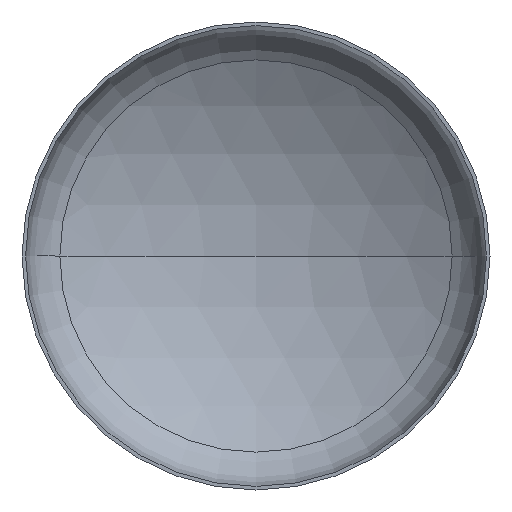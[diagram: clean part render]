
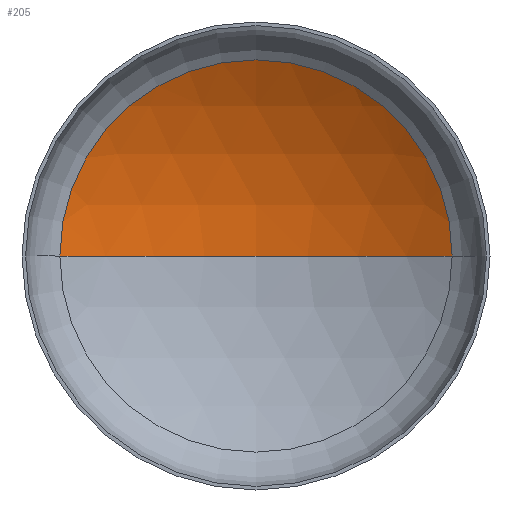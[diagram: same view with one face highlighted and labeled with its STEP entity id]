
A CAD part, front view. The second image highlights one B-rep face of the part: STEP entity #205.
In plain terms, the highlighted spherical face has radius 5200 mm.
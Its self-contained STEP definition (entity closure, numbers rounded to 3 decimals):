
#5 = ORIENTED_EDGE ( 'NONE', *, *, #166, .T. ) ;
#9 = ORIENTED_EDGE ( 'NONE', *, *, #168, .T. ) ;
#21 = CARTESIAN_POINT ( 'NONE',  ( -2723.81, 1001.835, 0. ) ) ;
#30 = VERTEX_POINT ( 'NONE', #362 ) ;
#43 = AXIS2_PLACEMENT_3D ( 'NONE', #130, #159, #230 ) ;
#47 = DIRECTION ( 'NONE',  ( 1., 0., 0. ) ) ;
#52 = ORIENTED_EDGE ( 'NONE', *, *, #172, .F. ) ;
#75 = AXIS2_PLACEMENT_3D ( 'NONE', #393, #293, #318 ) ;
#77 = VERTEX_POINT ( 'NONE', #21 ) ;
#82 = AXIS2_PLACEMENT_3D ( 'NONE', #299, #167, #324 ) ;
#87 = EDGE_LOOP ( 'NONE', ( #52, #9, #5 ) ) ;
#90 = AXIS2_PLACEMENT_3D ( 'NONE', #214, #373, #47 ) ;
#126 = VERTEX_POINT ( 'NONE', #145 ) ;
#130 = CARTESIAN_POINT ( 'NONE',  ( 0., -3427.709, 0. ) ) ;
#145 = CARTESIAN_POINT ( 'NONE',  ( 0., 1772.291, 0. ) ) ;
#159 = DIRECTION ( 'NONE',  ( 0., 0., -1. ) ) ;
#166 = EDGE_CURVE ( 'NONE', #30, #77, #285, .T. ) ;
#167 = DIRECTION ( 'NONE',  ( 0., 0., -1. ) ) ;
#168 = EDGE_CURVE ( 'NONE', #126, #30, #227, .T. ) ;
#172 = EDGE_CURVE ( 'NONE', #126, #77, #409, .T. ) ;
#205 = ADVANCED_FACE ( 'NONE', ( #400 ), #271, .F. ) ;
#214 = CARTESIAN_POINT ( 'NONE',  ( 0., 1001.835, 0. ) ) ;
#227 = CIRCLE ( 'NONE', #82, 5200. ) ;
#230 = DIRECTION ( 'NONE',  ( -1., 0., 0. ) ) ;
#271 = SPHERICAL_SURFACE ( 'NONE', #43, 5200. ) ;
#285 = CIRCLE ( 'NONE', #90, 2723.81 ) ;
#293 = DIRECTION ( 'NONE',  ( 0., 0., 1. ) ) ;
#299 = CARTESIAN_POINT ( 'NONE',  ( 0., -3427.709, 0. ) ) ;
#318 = DIRECTION ( 'NONE',  ( 1., 0., 0. ) ) ;
#324 = DIRECTION ( 'NONE',  ( -1., 0., 0. ) ) ;
#362 = CARTESIAN_POINT ( 'NONE',  ( 2723.81, 1001.835, 0. ) ) ;
#373 = DIRECTION ( 'NONE',  ( 0., -1., 0. ) ) ;
#393 = CARTESIAN_POINT ( 'NONE',  ( 0., -3427.709, 0. ) ) ;
#400 = FACE_OUTER_BOUND ( 'NONE', #87, .T. ) ;
#409 = CIRCLE ( 'NONE', #75, 5200. ) ;
